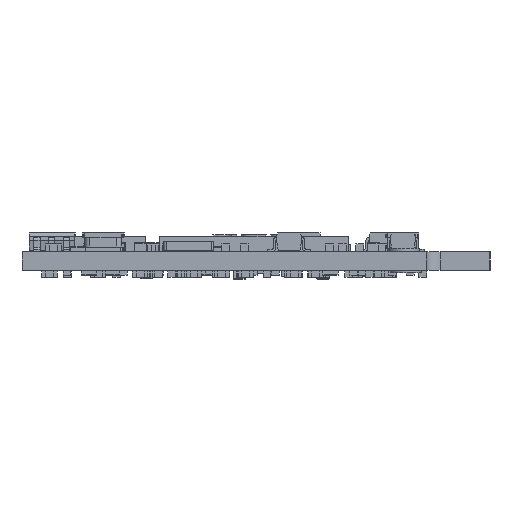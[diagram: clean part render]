
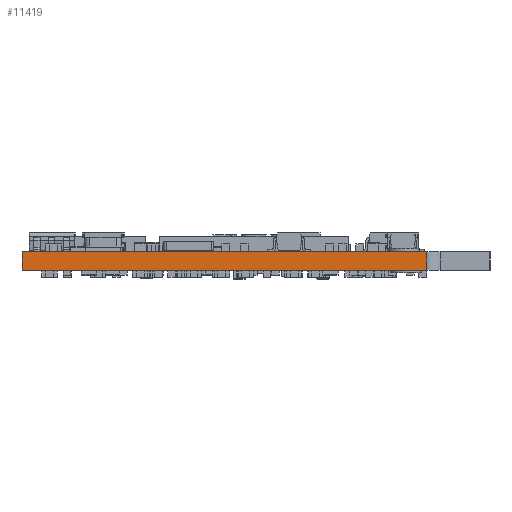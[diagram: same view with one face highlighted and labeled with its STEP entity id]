
A CAD part, front view. The second image highlights one B-rep face of the part: STEP entity #11419.
In plain terms, the highlighted planar face has unit normal (0, -1, 0).
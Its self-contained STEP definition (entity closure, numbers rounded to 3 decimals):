
#4043=ORIENTED_EDGE('',*,*,#8339,.T.);
#4044=ORIENTED_EDGE('',*,*,#8322,.T.);
#4045=ORIENTED_EDGE('',*,*,#8337,.F.);
#4046=ORIENTED_EDGE('',*,*,#7911,.F.);
#7911=EDGE_CURVE('',#12677,#12664,#21149,.T.);
#8322=EDGE_CURVE('',#12689,#12666,#21551,.T.);
#8337=EDGE_CURVE('',#12664,#12666,#21567,.T.);
#8339=EDGE_CURVE('',#12677,#12689,#21569,.T.);
#10299=EDGE_LOOP('',(#4043,#4044,#4045,#4046));
#11419=ADVANCED_FACE('',(#14452),#15381,.T.);
#12664=VERTEX_POINT('',#41619);
#12666=VERTEX_POINT('',#41621);
#12677=VERTEX_POINT('',#41632);
#12689=VERTEX_POINT('',#41644);
#14452=FACE_OUTER_BOUND('',#10299,.F.);
#15381=PLANE('',#24868);
#18931=VECTOR('',#27849,25.9);
#19333=VECTOR('',#28259,25.9);
#19349=VECTOR('',#28283,1.2);
#19351=VECTOR('',#28285,1.2);
#21149=LINE('',#41185,#18931);
#21551=LINE('',#41591,#19333);
#21567=LINE('',#41611,#19349);
#21569=LINE('',#41613,#19351);
#24868=AXIS2_PLACEMENT_3D('',#42075,#28590,#28591);
#27849=DIRECTION('',(1.,0.,0.));
#28259=DIRECTION('',(1.,0.,0.));
#28283=DIRECTION('',(0.,0.,1.));
#28285=DIRECTION('',(0.,0.,1.));
#28590=DIRECTION('',(0.,-1.,0.));
#28591=DIRECTION('',(1.,0.,0.));
#41185=CARTESIAN_POINT('',(-10.9,-11.,0.));
#41591=CARTESIAN_POINT('',(-10.9,-11.,1.2));
#41611=CARTESIAN_POINT('',(15.,-11.,0.));
#41613=CARTESIAN_POINT('',(-10.9,-11.,0.));
#41619=CARTESIAN_POINT('',(15.,-11.,0.));
#41621=CARTESIAN_POINT('',(15.,-11.,1.2));
#41632=CARTESIAN_POINT('',(-10.9,-11.,0.));
#41644=CARTESIAN_POINT('',(-10.9,-11.,1.2));
#42075=CARTESIAN_POINT('',(-15.,-11.,0.));
